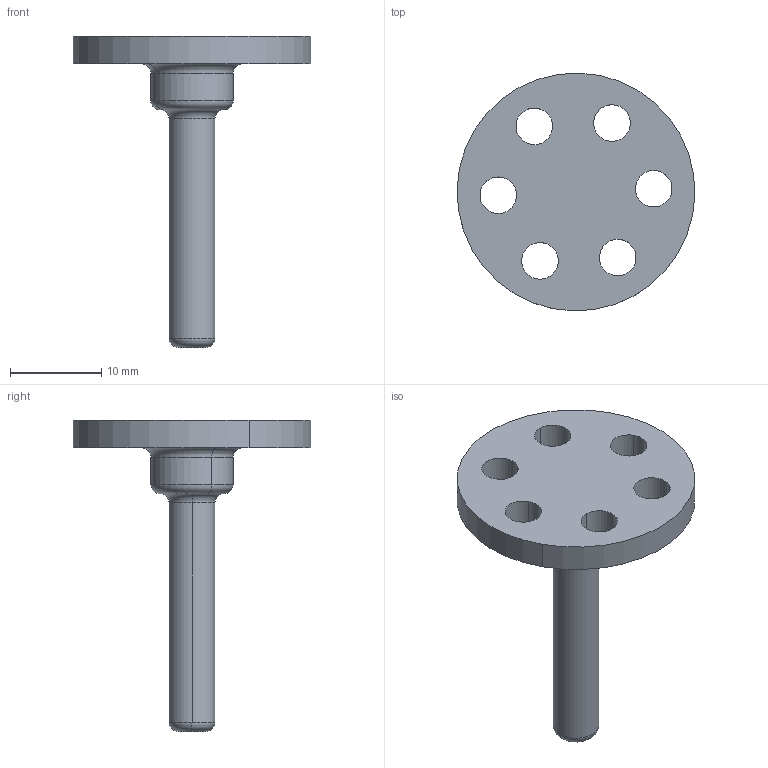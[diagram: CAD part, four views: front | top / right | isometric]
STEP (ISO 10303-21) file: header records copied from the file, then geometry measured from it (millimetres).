
FILE_DESCRIPTION(('CATIA V5 STEP Exchange'),'2;1');
FILE_NAME('C:\Users\Administrateur\Documents\Monture\Monture_voyage\Commande\Bride.stp','2023-03-13T07:10:34+00:00',('none'),('none'),'CATIA Version 5 Release 18 GA (IN-10)','CATIA V5 STEP AP203','none');
FILE_SCHEMA(('CONFIG_CONTROL_DESIGN'));
Length unit declared in the file: millimetre
Products named in the file (1): Bride
Bounding box: 25.99 x 25.99 x 34 mm (x, y, z)
Volume: 2196.4 mm3; surface area: 1894.3 mm2
Topology: 1 solids, 1 shells, 29 faces, 70 edges, 44 vertices
Faces by surface type: cylinder 18, torus 8, plane 3
Entity records: 841 total; most frequent: ORIENTED_EDGE 140, CARTESIAN_POINT 135, DIRECTION 110, AXIS2_PLACEMENT_3D 73, EDGE_CURVE 70, CIRCLE 52, VERTEX_POINT 44, EDGE_LOOP 42
